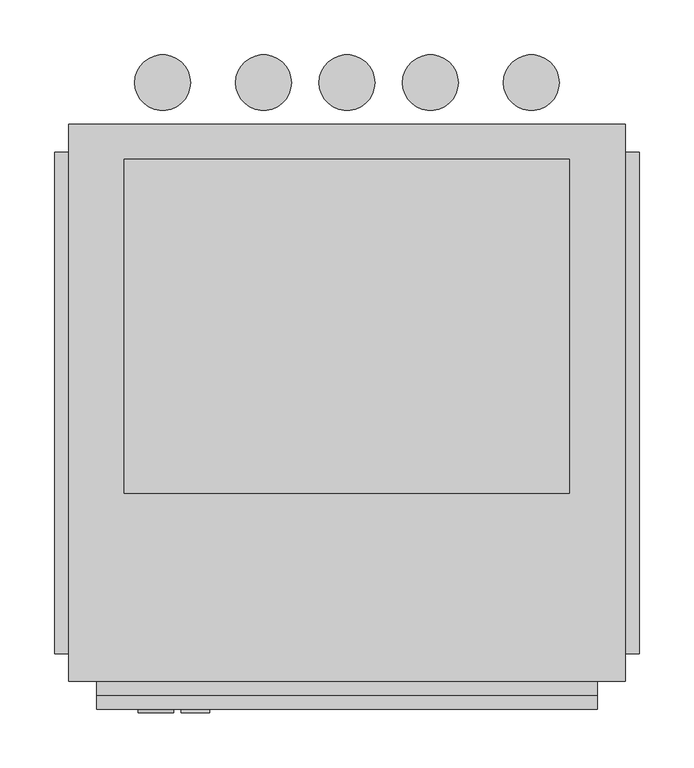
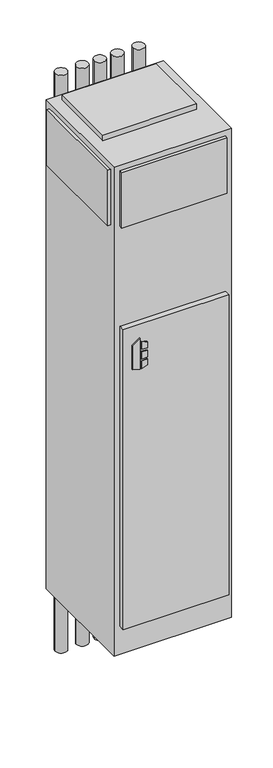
"""IFC4 building model written with IfcOpenShell, lengths in millimetres: proxy geometry, Concealed_Modular_Fan_Coil_Unit_-_MPY_-_IEC_-_4-Pipe_-_WithRisers_2022 : Size 06 - 277v/60Hz/1Ph - 4/1 Coil."""

from ifc_helpers import new_model, si_unit, point, frame, frame_2d, origin, origin_with_axes, place, context, project, spatial, polyline, circle_curve, trimmed, segment, composite_curve, outline, extrude, source, transform, mapped, element, save


def mechanical_equipment_4983d0d6(model_context):
    return source(origin(), model_context, "Body", "SweptSolid", [
        extrude(outline(polyline([(1305.3480703, 215.9), (1295.4, 248.0733866), (1437.5709244, 248.0733866), (1414.5489183, 215.9), (1305.3480703, 215.9)])), frame((0.0, -292.1, 0.0), z_axis=(0.0, 1.0, 0.0), x_axis=(0.0, 0.0, 1.0)), (0.0, 0.0, 1.0), 3.175),
        extrude(outline(polyline([(1384.3473557, 254.8317195), (1381.1449632, 280.9131138), (1410.3738042, 280.9131138), (1418.4382193, 254.8317195), (1384.3473557, 254.8317195)])), frame((0.0, -292.1, 0.0), z_axis=(0.0, 1.0, 0.0), x_axis=(0.0, 0.0, 1.0)), (0.0, 0.0, 1.0), 3.175),
        extrude(outline(polyline([(1332.4838288, 280.9131138), (1328.8183279, 254.8317195), (1295.4, 254.8317195), (1304.0342372, 280.9131138), (1332.4838288, 280.9131138)])), frame((0.0, -292.1, 0.0), z_axis=(0.0, 1.0, 0.0), x_axis=(0.0, 0.0, 1.0)), (0.0, 0.0, 1.0), 3.175),
        extrude(outline(polyline([(1371.7989903, 280.9131138), (1374.0808166, 254.8317195), (1338.1432681, 254.8317195), (1340.8845331, 280.9131138), (1371.7989903, 280.9131138)])), frame((0.0, -292.1, 0.0), z_axis=(0.0, 1.0, 0.0), x_axis=(0.0, 0.0, 1.0)), (0.0, 0.0, 1.0), 3.175),
        extrude(outline(composite_curve([segment(trimmed(circle_curve(frame_2d((406.4, 282.575)), 25.4), [point((381.0, 282.575))], [point((431.8, 282.575))], False, "CARTESIAN"), True, "CONTINUOUS"), segment(trimmed(circle_curve(frame_2d((406.4, 282.575)), 25.4), [point((431.8, 282.575))], [point((381.0, 282.575))], False, "CARTESIAN"), True, "CONTINUOUS")], self_intersect=False)), frame((0.0, 0.0, -330.2), z_axis=(0.0, 0.0, 1.0), x_axis=(1.0, 0.0, 0.0)), (0.0, 0.0, 1.0), 2641.6),
        extrude(outline(composite_curve([segment(trimmed(circle_curve(frame_2d((482.6, 282.575)), 25.4), [point((457.2, 282.575))], [point((508.0, 282.575))], False, "CARTESIAN"), True, "CONTINUOUS"), segment(trimmed(circle_curve(frame_2d((482.6, 282.575)), 25.4), [point((508.0, 282.575))], [point((457.2, 282.575))], False, "CARTESIAN"), True, "CONTINUOUS")], self_intersect=False)), frame((0.0, 0.0, -330.2), z_axis=(0.0, 0.0, 1.0), x_axis=(1.0, 0.0, 0.0)), (0.0, 0.0, 1.0), 2641.6),
        extrude(outline(composite_curve([segment(trimmed(circle_curve(frame_2d((574.675, 282.575)), 25.4), [point((549.275, 282.575))], [point((600.075, 282.575))], False, "CARTESIAN"), True, "CONTINUOUS"), segment(trimmed(circle_curve(frame_2d((574.675, 282.575)), 25.4), [point((600.075, 282.575))], [point((549.275, 282.575))], False, "CARTESIAN"), True, "CONTINUOUS")], self_intersect=False)), frame((0.0, 0.0, -330.2), z_axis=(0.0, 0.0, 1.0), x_axis=(1.0, 0.0, 0.0)), (0.0, 0.0, 1.0), 2641.6),
        extrude(outline(composite_curve([segment(trimmed(circle_curve(frame_2d((330.2, 282.575)), 25.4), [point((304.8, 282.575))], [point((355.6, 282.575))], False, "CARTESIAN"), True, "CONTINUOUS"), segment(trimmed(circle_curve(frame_2d((330.2, 282.575)), 25.4), [point((355.6, 282.575))], [point((304.8, 282.575))], False, "CARTESIAN"), True, "CONTINUOUS")], self_intersect=False)), frame((0.0, 0.0, -330.2), z_axis=(0.0, 0.0, 1.0), x_axis=(1.0, 0.0, 0.0)), (0.0, 0.0, 1.0), 2641.6),
        extrude(outline(composite_curve([segment(trimmed(circle_curve(frame_2d((238.125, 282.575)), 25.4), [point((212.725, 282.575))], [point((263.525, 282.575))], False, "CARTESIAN"), True, "CONTINUOUS"), segment(trimmed(circle_curve(frame_2d((238.125, 282.575)), 25.4), [point((263.525, 282.575))], [point((212.725, 282.575))], False, "CARTESIAN"), True, "CONTINUOUS")], self_intersect=False)), frame((0.0, 0.0, -330.2), z_axis=(0.0, 0.0, 1.0), x_axis=(1.0, 0.0, 0.0)), (0.0, 0.0, 1.0), 2641.6),
        extrude(outline(polyline([(609.6, 212.725), (609.6, -92.075), (203.2, -92.075), (203.2, 212.725), (609.6, 212.725)])), frame((0.0, 0.0, 2235.2), z_axis=(0.0, 0.0, 1.0), x_axis=(1.0, 0.0, 0.0)), (0.0, 0.0, 1.0), 25.4),
        extrude(outline(polyline([(139.7, -238.125), (139.7, 219.075), (152.4, 219.075), (152.4, -238.125), (139.7, -238.125)])), frame((0.0, 0.0, 1955.8), z_axis=(0.0, 0.0, 1.0), x_axis=(1.0, 0.0, 0.0)), (0.0, 0.0, 1.0), 254.0),
        extrude(outline(polyline([(673.1, 219.075), (673.1, -238.125), (660.4, -238.125), (660.4, 219.075), (673.1, 219.075)])), frame((0.0, 0.0, 1955.8), z_axis=(0.0, 0.0, 1.0), x_axis=(1.0, 0.0, 0.0)), (0.0, 0.0, 1.0), 254.0),
        extrude(outline(polyline([(635.0, -276.225), (177.8, -276.225), (177.8, -263.525), (635.0, -263.525), (635.0, -276.225)])), frame((0.0, 0.0, 1955.8), z_axis=(0.0, 0.0, 1.0), x_axis=(1.0, 0.0, 0.0)), (0.0, 0.0, 1.0), 254.0),
        extrude(outline(polyline([(635.0, -288.925), (177.8, -288.925), (177.8, -263.525), (635.0, -263.525), (635.0, -288.925)])), frame((0.0, 0.0, 127.0), z_axis=(0.0, 0.0, 1.0), x_axis=(1.0, 0.0, 0.0)), (0.0, 0.0, 1.0), 1371.6),
        extrude(outline(polyline([(660.4, 244.475), (660.4, -263.525), (152.4, -263.525), (152.4, 244.475), (660.4, 244.475)])), origin_with_axes(), (0.0, 0.0, 1.0), 2235.2),
    ])


if __name__ == "__main__":
    model = new_model("IFC4")
    model_context = context("Model", 3, world=origin())
    ifc_project = project(units=[si_unit("LENGTHUNIT", "METRE", prefix="MILLI")], contexts=[model_context])
    site = spatial("IfcSite", under=ifc_project)
    building = spatial("IfcBuilding", under=site)
    placement = place(None, origin())
    mechanical_equipment_shape = mechanical_equipment_4983d0d6(model_context)
    element("IfcBuildingElementProxy", 1, Name="Concealed_Modular_Fan_Coil_Unit_-_MPY_-_IEC_-_4-Pipe_-_WithRisers_2022 : Size 06 - 277v/60Hz/1Ph - 4/1 Coil", ObjectType="Concealed_Modular_Fan_Coil_Unit_-_MPY_-_IEC_-_4-Pipe_-_WithRisers_2022 : Size 06 - 277v/60Hz/1Ph - 4/1 Coil", at=placement, inside=building, context=model_context, shape_type="MappedRepresentation", body=[
        mapped(mechanical_equipment_shape, transform((0.0, 0.0, 0.0), x_axis=(1.0, 0.0, 0.0), y_axis=(0.0, 1.0, 0.0), z_axis=(0.0, 0.0, 1.0))),
    ])
    save(model, "model.ifc")
